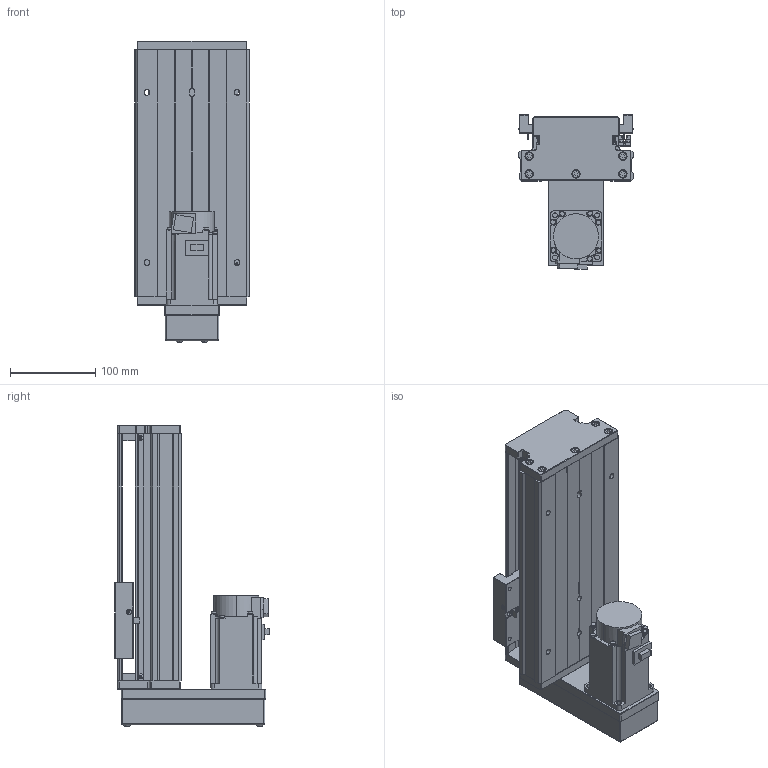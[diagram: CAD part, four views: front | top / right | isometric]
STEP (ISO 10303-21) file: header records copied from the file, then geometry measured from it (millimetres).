
FILE_DESCRIPTION (( 'STEP AP203' ), '1' );
FILE_NAME ('KTH130-150-BM-M40-C4.step', '2023-06-30T04:03:38', ( '微软用户' ), ( '微软中国' ), 'SwSTEP 2.0', 'SolidWorks 2020', '' );
FILE_SCHEMA (( 'CONFIG_CONTROL_DESIGN' ));
Length unit declared in the file: millimetre
Products named in the file (19): GBT 70.2-M4¡Á35_M4¡Á35; KTH130-004; CTHA60-016; GTH14-015-2_CTHA86-015-2; KTH130-005; GBT 70.1-M3℅5; GTH14-033; GB1155-6X6; GBT77-2000 M3×3; KTH130-150-BM-M40-C4; GBT70.1 M5℅16; す晦芛蹟隊 M3℅5; GBT 70.2-M3¡Á5_M3¡Á6; GBT 70.3-M3℅8; GTH14-001_150; CTHA60-017; HG-KN43J-S100; KTH130-002_KTH130-002; EE_SX911P_R
Assembly tree (53 placements, depth 2):
  KTH130-150-BM-M40-C4
    GTH14-001_150
    KTH130-002_KTH130-002
    KTH130-004
    KTH130-005
    GB1155-6X6  x2
    GBT70.1 M5℅16  x10
    GBT 70.2-M3¡Á5_M3¡Á6  x4
    CTHA60-017  x3
    EE_SX911P_R  x3
    CTHA60-016  x2
    GBT 70.1-M3℅5  x6
    GBT77-2000 M3×3  x6
    す晦芛蹟隊 M3℅5  x2
    GBT 70.3-M3℅8  x4
    HG-KN43J-S100
    GBT 70.2-M4¡Á35_M4¡Á35  x4
    GTH14-015-2_CTHA86-015-2
    GTH14-033
Bounding box: 135 x 181.8 x 354.2 mm (x, y, z)
Volume: 2342017.4 mm3; surface area: 439835.3 mm2
Topology: 56 solids, 56 shells, 2193 faces, 5294 edges, 3294 vertices
Faces by surface type: plane 1191, cylinder 588, cone 290, torus 100, sphere 24
Entity records: 39634 total; most frequent: CARTESIAN_POINT 8484, DIRECTION 5859, ORIENTED_EDGE 5788, EDGE_CURVE 2894, AXIS2_PLACEMENT_3D 2000, LINE 1859, VECTOR 1859, VERTEX_POINT 1847
